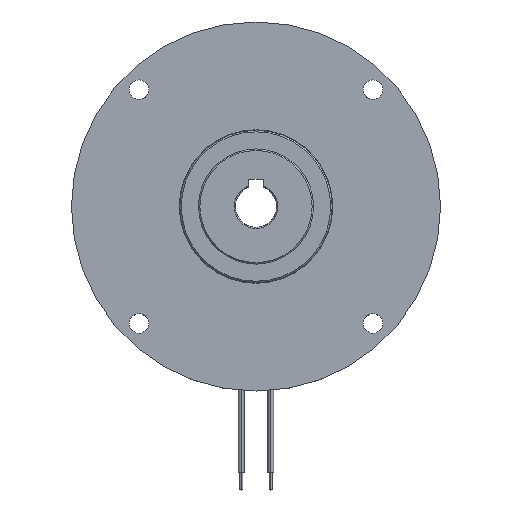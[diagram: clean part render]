
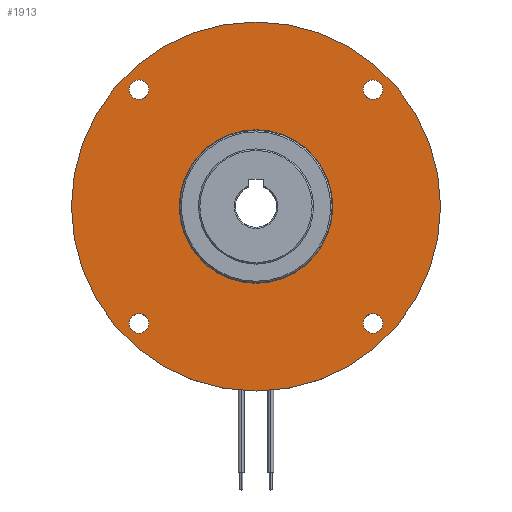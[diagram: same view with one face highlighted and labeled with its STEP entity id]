
A CAD part, top view. The second image highlights one B-rep face of the part: STEP entity #1913.
In plain terms, the highlighted planar face has unit normal (0, 0, 1).
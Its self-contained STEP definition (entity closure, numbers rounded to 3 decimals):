
#91 = CIRCLE ( 'NONE', #4889, 62.5 ) ;
#136 = AXIS2_PLACEMENT_3D ( 'NONE', #5696, #7098, #5038 ) ;
#222 = CIRCLE ( 'NONE', #2923, 3.3 ) ;
#257 = DIRECTION ( 'NONE',  ( 0., 0., -1. ) ) ;
#339 = ORIENTED_EDGE ( 'NONE', *, *, #4109, .T. ) ;
#427 = EDGE_CURVE ( 'NONE', #7702, #5238, #222, .T. ) ;
#435 = DIRECTION ( 'NONE',  ( 0., 0., -1. ) ) ;
#520 = CARTESIAN_POINT ( 'NONE',  ( 62.5, 0., 0. ) ) ;
#538 = CARTESIAN_POINT ( 'NONE',  ( 39.598, -39.598, 0. ) ) ;
#678 = AXIS2_PLACEMENT_3D ( 'NONE', #538, #7913, #3213 ) ;
#718 = DIRECTION ( 'NONE',  ( -1., 0., 0. ) ) ;
#734 = CARTESIAN_POINT ( 'NONE',  ( -42.898, 39.598, 0. ) ) ;
#786 = EDGE_LOOP ( 'NONE', ( #3390, #2194 ) ) ;
#822 = CIRCLE ( 'NONE', #8680, 26. ) ;
#901 = EDGE_LOOP ( 'NONE', ( #4819, #6356 ) ) ;
#927 = CARTESIAN_POINT ( 'NONE',  ( 42.898, -39.598, 0. ) ) ;
#1115 = FACE_BOUND ( 'NONE', #1562, .T. ) ;
#1146 = DIRECTION ( 'NONE',  ( -1., 0., 0. ) ) ;
#1245 = DIRECTION ( 'NONE',  ( 0., 0., -1. ) ) ;
#1254 = DIRECTION ( 'NONE',  ( -1., 0., 0. ) ) ;
#1503 = AXIS2_PLACEMENT_3D ( 'NONE', #5826, #1245, #2485 ) ;
#1562 = EDGE_LOOP ( 'NONE', ( #2079, #3747 ) ) ;
#1577 = FACE_BOUND ( 'NONE', #4710, .T. ) ;
#1620 = EDGE_CURVE ( 'NONE', #3494, #4907, #6946, .T. ) ;
#1651 = PLANE ( 'NONE',  #136 ) ;
#1665 = EDGE_CURVE ( 'NONE', #8356, #4045, #6536, .T. ) ;
#1725 = CARTESIAN_POINT ( 'NONE',  ( -39.598, 39.598, 0. ) ) ;
#1797 = EDGE_CURVE ( 'NONE', #3237, #5780, #7959, .T. ) ;
#1887 = DIRECTION ( 'NONE',  ( 0., 0., -1. ) ) ;
#1913 = ADVANCED_FACE ( 'NONE', ( #7589, #1577, #8226, #2233, #4915, #1115 ), #1651, .F. ) ;
#2079 = ORIENTED_EDGE ( 'NONE', *, *, #2370, .T. ) ;
#2084 = CARTESIAN_POINT ( 'NONE',  ( -36.298, -39.598, 0. ) ) ;
#2194 = ORIENTED_EDGE ( 'NONE', *, *, #2207, .F. ) ;
#2207 = EDGE_CURVE ( 'NONE', #7408, #7275, #91, .T. ) ;
#2233 = FACE_BOUND ( 'NONE', #6863, .T. ) ;
#2252 = CARTESIAN_POINT ( 'NONE',  ( 0., 0., 0. ) ) ;
#2276 = CARTESIAN_POINT ( 'NONE',  ( -62.5, 0., 0. ) ) ;
#2350 = EDGE_CURVE ( 'NONE', #4045, #8356, #6591, .T. ) ;
#2370 = EDGE_CURVE ( 'NONE', #7269, #4410, #822, .T. ) ;
#2385 = DIRECTION ( 'NONE',  ( 0., 0., -1. ) ) ;
#2407 = DIRECTION ( 'NONE',  ( 0., 0., -1. ) ) ;
#2485 = DIRECTION ( 'NONE',  ( -1., 0., 0. ) ) ;
#2632 = DIRECTION ( 'NONE',  ( -1., 0., 0. ) ) ;
#2683 = CARTESIAN_POINT ( 'NONE',  ( 36.298, -39.598, 0. ) ) ;
#2787 = DIRECTION ( 'NONE',  ( -1., 0., 0. ) ) ;
#2915 = CARTESIAN_POINT ( 'NONE',  ( 42.898, 39.598, 0. ) ) ;
#2923 = AXIS2_PLACEMENT_3D ( 'NONE', #6346, #7609, #8255 ) ;
#3119 = DIRECTION ( 'NONE',  ( -1., 0., 0. ) ) ;
#3213 = DIRECTION ( 'NONE',  ( -1., 0., 0. ) ) ;
#3237 = VERTEX_POINT ( 'NONE', #2683 ) ;
#3264 = CIRCLE ( 'NONE', #4811, 26. ) ;
#3390 = ORIENTED_EDGE ( 'NONE', *, *, #5624, .F. ) ;
#3436 = ORIENTED_EDGE ( 'NONE', *, *, #8586, .T. ) ;
#3494 = VERTEX_POINT ( 'NONE', #8011 ) ;
#3551 = CARTESIAN_POINT ( 'NONE',  ( 0., 0., 0. ) ) ;
#3606 = AXIS2_PLACEMENT_3D ( 'NONE', #5484, #5959, #2787 ) ;
#3747 = ORIENTED_EDGE ( 'NONE', *, *, #8185, .T. ) ;
#3859 = CARTESIAN_POINT ( 'NONE',  ( -39.598, -39.598, 0. ) ) ;
#3919 = DIRECTION ( 'NONE',  ( 0., 0., -1. ) ) ;
#4045 = VERTEX_POINT ( 'NONE', #5129 ) ;
#4069 = ORIENTED_EDGE ( 'NONE', *, *, #2350, .T. ) ;
#4109 = EDGE_CURVE ( 'NONE', #5780, #3237, #8357, .T. ) ;
#4122 = AXIS2_PLACEMENT_3D ( 'NONE', #2252, #4942, #1254 ) ;
#4342 = EDGE_CURVE ( 'NONE', #5238, #7702, #4855, .T. ) ;
#4401 = DIRECTION ( 'NONE',  ( -1., 0., 0. ) ) ;
#4410 = VERTEX_POINT ( 'NONE', #8364 ) ;
#4533 = CARTESIAN_POINT ( 'NONE',  ( -42.898, -39.598, 0. ) ) ;
#4584 = EDGE_LOOP ( 'NONE', ( #8574, #3436 ) ) ;
#4683 = CARTESIAN_POINT ( 'NONE',  ( 39.598, 39.598, 0. ) ) ;
#4710 = EDGE_LOOP ( 'NONE', ( #5299, #339 ) ) ;
#4811 = AXIS2_PLACEMENT_3D ( 'NONE', #8645, #1887, #2632 ) ;
#4819 = ORIENTED_EDGE ( 'NONE', *, *, #4342, .T. ) ;
#4855 = CIRCLE ( 'NONE', #8069, 3.3 ) ;
#4889 = AXIS2_PLACEMENT_3D ( 'NONE', #3551, #257, #4891 ) ;
#4891 = DIRECTION ( 'NONE',  ( -1., 0., 0. ) ) ;
#4907 = VERTEX_POINT ( 'NONE', #2915 ) ;
#4915 = FACE_OUTER_BOUND ( 'NONE', #786, .T. ) ;
#4942 = DIRECTION ( 'NONE',  ( 0., 0., -1. ) ) ;
#5038 = DIRECTION ( 'NONE',  ( -1., 0., 0. ) ) ;
#5129 = CARTESIAN_POINT ( 'NONE',  ( -36.298, 39.598, 0. ) ) ;
#5238 = VERTEX_POINT ( 'NONE', #4533 ) ;
#5299 = ORIENTED_EDGE ( 'NONE', *, *, #1797, .T. ) ;
#5414 = AXIS2_PLACEMENT_3D ( 'NONE', #4683, #6136, #718 ) ;
#5484 = CARTESIAN_POINT ( 'NONE',  ( -39.598, 39.598, 0. ) ) ;
#5624 = EDGE_CURVE ( 'NONE', #7275, #7408, #6948, .T. ) ;
#5696 = CARTESIAN_POINT ( 'NONE',  ( 0., 62.5, 0. ) ) ;
#5780 = VERTEX_POINT ( 'NONE', #927 ) ;
#5826 = CARTESIAN_POINT ( 'NONE',  ( 39.598, -39.598, 0. ) ) ;
#5959 = DIRECTION ( 'NONE',  ( 0., 0., -1. ) ) ;
#6136 = DIRECTION ( 'NONE',  ( 0., 0., -1. ) ) ;
#6346 = CARTESIAN_POINT ( 'NONE',  ( -39.598, -39.598, 0. ) ) ;
#6356 = ORIENTED_EDGE ( 'NONE', *, *, #427, .T. ) ;
#6536 = CIRCLE ( 'NONE', #3606, 3.3 ) ;
#6591 = CIRCLE ( 'NONE', #8242, 3.3 ) ;
#6863 = EDGE_LOOP ( 'NONE', ( #7708, #4069 ) ) ;
#6946 = CIRCLE ( 'NONE', #5414, 3.3 ) ;
#6948 = CIRCLE ( 'NONE', #4122, 62.5 ) ;
#7095 = CIRCLE ( 'NONE', #8337, 3.3 ) ;
#7098 = DIRECTION ( 'NONE',  ( 0., 0., -1. ) ) ;
#7269 = VERTEX_POINT ( 'NONE', #8328 ) ;
#7275 = VERTEX_POINT ( 'NONE', #2276 ) ;
#7408 = VERTEX_POINT ( 'NONE', #520 ) ;
#7589 = FACE_BOUND ( 'NONE', #4584, .T. ) ;
#7609 = DIRECTION ( 'NONE',  ( 0., 0., -1. ) ) ;
#7702 = VERTEX_POINT ( 'NONE', #2084 ) ;
#7708 = ORIENTED_EDGE ( 'NONE', *, *, #1665, .T. ) ;
#7913 = DIRECTION ( 'NONE',  ( 0., 0., -1. ) ) ;
#7959 = CIRCLE ( 'NONE', #678, 3.3 ) ;
#7967 = DIRECTION ( 'NONE',  ( -1., 0., 0. ) ) ;
#8011 = CARTESIAN_POINT ( 'NONE',  ( 36.298, 39.598, 0. ) ) ;
#8069 = AXIS2_PLACEMENT_3D ( 'NONE', #3859, #435, #3119 ) ;
#8185 = EDGE_CURVE ( 'NONE', #4410, #7269, #3264, .T. ) ;
#8226 = FACE_BOUND ( 'NONE', #901, .T. ) ;
#8242 = AXIS2_PLACEMENT_3D ( 'NONE', #1725, #3919, #4401 ) ;
#8255 = DIRECTION ( 'NONE',  ( -1., 0., 0. ) ) ;
#8328 = CARTESIAN_POINT ( 'NONE',  ( -26., 0., 0. ) ) ;
#8337 = AXIS2_PLACEMENT_3D ( 'NONE', #8402, #2407, #7967 ) ;
#8356 = VERTEX_POINT ( 'NONE', #734 ) ;
#8357 = CIRCLE ( 'NONE', #1503, 3.3 ) ;
#8364 = CARTESIAN_POINT ( 'NONE',  ( 26., 0., 0. ) ) ;
#8383 = CARTESIAN_POINT ( 'NONE',  ( 0., 0., 0. ) ) ;
#8402 = CARTESIAN_POINT ( 'NONE',  ( 39.598, 39.598, 0. ) ) ;
#8574 = ORIENTED_EDGE ( 'NONE', *, *, #1620, .T. ) ;
#8586 = EDGE_CURVE ( 'NONE', #4907, #3494, #7095, .T. ) ;
#8645 = CARTESIAN_POINT ( 'NONE',  ( 0., 0., 0. ) ) ;
#8680 = AXIS2_PLACEMENT_3D ( 'NONE', #8383, #2385, #1146 ) ;
